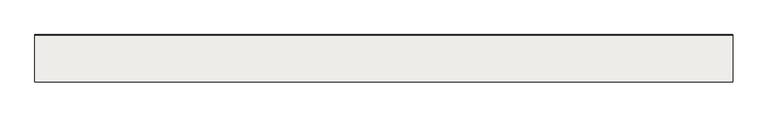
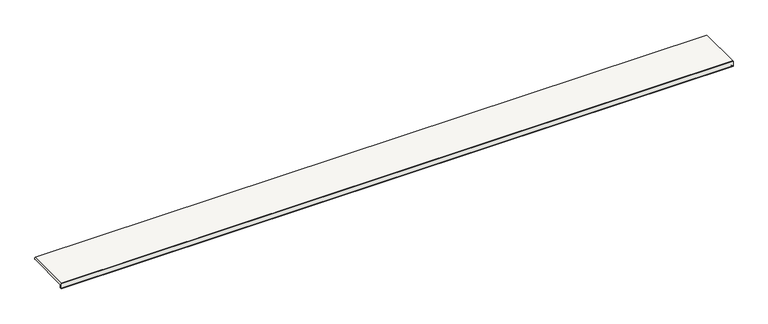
"""IFC4 building model written with IfcOpenShell, lengths in millimetres: slab geometry, ROSA GRES_L62 : Pieza L62_Pietro_White_Anti-Slip."""

from ifc_helpers import new_model, si_unit, point, frame, frame_2d, origin, place, context, project, spatial, polyline, circle_curve, trimmed, segment, composite_curve, outline, extrude, source, transform, mapped, element, save


def slab_16cf1f15(model_context):
    return source(origin(), model_context, "Body", "SweptSolid", [
        extrude(outline(composite_curve([segment(polyline([(12.1001991, -37.0), (9.4054777, -37.0)]), True, "CONTINUOUS"), segment(trimmed(circle_curve(frame_2d((7.4142134, -37.0)), 1.9912643), [point((9.4054777, -37.0))], [point((5.422949, -37.0))], True, "CARTESIAN"), True, "CONTINUOUS"), segment(polyline([(5.422949, -37.0), (2.5, -37.0)]), True, "CONTINUOUS"), segment(trimmed(circle_curve(frame_2d((2.5, -34.5)), 2.5), [point((2.5, -37.0))], [point((0.0, -34.5))], False, "CARTESIAN"), True, "CONTINUOUS"), segment(polyline([(0.0, -34.5), (0.0, -2.5), (2.5, 0.0), (315.5, 0.0), (317.0, -2.5), (317.0, -12.4648352)]), True, "CONTINUOUS"), segment(trimmed(circle_curve(frame_2d((315.5234432, -12.4648352)), 1.4765568), [point((317.0, -12.4648352))], [point((315.5234432, -13.9413919))], False, "CARTESIAN"), True, "CONTINUOUS"), segment(polyline([(315.5234432, -13.9413919), (16.6422322, -13.9413919)]), True, "CONTINUOUS"), segment(trimmed(circle_curve(frame_2d((16.6422322, -16.5836242)), 2.6422322), [point((16.6422322, -13.9413919))], [point((14.0, -16.5836242))], True, "CARTESIAN"), True, "CONTINUOUS"), segment(polyline([(14.0, -16.5836242), (14.0, -35.1001991)]), True, "CONTINUOUS"), segment(trimmed(circle_curve(frame_2d((12.1001991, -35.1001991)), 1.8998009), [point((14.0, -35.1001991))], [point((12.1001991, -37.0))], False, "CARTESIAN"), True, "CONTINUOUS")], self_intersect=False)), frame((0.0, 0.0, 0.0), z_axis=(1.0, 0.0, 0.0), x_axis=(0.0, 1.0, 0.0)), (0.0, 0.0, 1.0), 4655.0),
    ])


if __name__ == "__main__":
    model = new_model("IFC4")
    model_context = context("Model", 3, world=origin())
    ifc_project = project(units=[si_unit("LENGTHUNIT", "METRE", prefix="MILLI")], contexts=[model_context])
    site = spatial("IfcSite", under=ifc_project)
    building = spatial("IfcBuilding", under=site)
    placement = place(None, origin())
    slab_shape = slab_16cf1f15(model_context)
    element("IfcSlab", 1, ObjectType="ROSA GRES_L62 : Pieza L62_Pietro_White_Anti-Slip", at=placement, inside=building, context=model_context, shape_type="MappedRepresentation", body=[
        mapped(slab_shape, transform((0.0, 0.0, 0.0), x_axis=(1.0, 0.0, 0.0), y_axis=(0.0, 1.0, 0.0), z_axis=(0.0, 0.0, 1.0))),
    ])
    save(model, "model.ifc")
